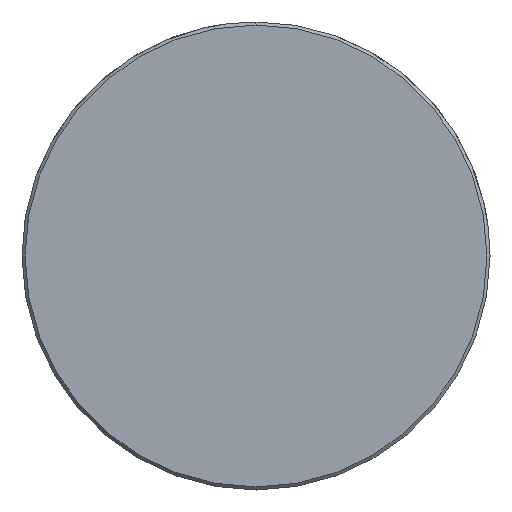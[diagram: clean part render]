
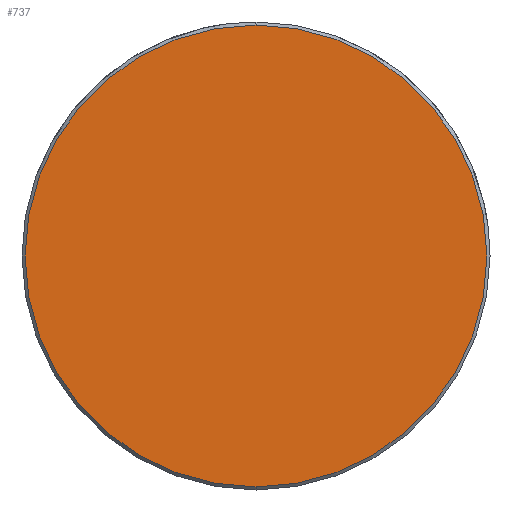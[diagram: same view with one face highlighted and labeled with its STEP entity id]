
A CAD part, left-side view. The second image highlights one B-rep face of the part: STEP entity #737.
In plain terms, the highlighted planar face has unit normal (-1, 0, 0).
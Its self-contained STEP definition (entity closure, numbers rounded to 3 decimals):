
#669=CARTESIAN_POINT('Vertex',(0.,0.,-22.2)) ;
#672=CARTESIAN_POINT('Axis2P3D Location',(0.,0.,0.)) ;
#676=CARTESIAN_POINT('Vertex',(0.,22.2,0.)) ;
#679=CARTESIAN_POINT('Axis2P3D Location',(0.,0.,0.)) ;
#683=CARTESIAN_POINT('Vertex',(0.,0.,22.2)) ;
#705=CARTESIAN_POINT('Axis2P3D Location',(0.,0.,0.)) ;
#709=CARTESIAN_POINT('Vertex',(0.,-22.2,0.)) ;
#712=CARTESIAN_POINT('Axis2P3D Location',(0.,0.,0.)) ;
#726=CARTESIAN_POINT('Axis2P3D Location',(0.,0.,0.)) ;
#673=DIRECTION('Axis2P3D Direction',(1.,0.,-0.)) ;
#680=DIRECTION('Axis2P3D Direction',(1.,0.,-0.)) ;
#706=DIRECTION('Axis2P3D Direction',(1.,0.,-0.)) ;
#713=DIRECTION('Axis2P3D Direction',(1.,0.,-0.)) ;
#727=DIRECTION('Axis2P3D Direction',(1.,0.,-0.)) ;
#728=DIRECTION('Axis2P3D XDirection',(-0.,0.,-1.)) ;
#674=AXIS2_PLACEMENT_3D('Circle Axis2P3D',#672,#673,$) ;
#681=AXIS2_PLACEMENT_3D('Circle Axis2P3D',#679,#680,$) ;
#707=AXIS2_PLACEMENT_3D('Circle Axis2P3D',#705,#706,$) ;
#714=AXIS2_PLACEMENT_3D('Circle Axis2P3D',#712,#713,$) ;
#729=AXIS2_PLACEMENT_3D('Plane Axis2P3D',#726,#727,#728) ;
#732=ORIENTED_EDGE('',*,*,#678,.F.) ;
#733=ORIENTED_EDGE('',*,*,#716,.F.) ;
#734=ORIENTED_EDGE('',*,*,#711,.F.) ;
#735=ORIENTED_EDGE('',*,*,#685,.F.) ;
#737=ADVANCED_FACE('549-40X360',(#736),#730,.F.) ;
#675=CIRCLE('generated circle',#674,22.2) ;
#682=CIRCLE('generated circle',#681,22.2) ;
#708=CIRCLE('generated circle',#707,22.2) ;
#715=CIRCLE('generated circle',#714,22.2) ;
#678=EDGE_CURVE('',#670,#677,#675,.T.) ;
#685=EDGE_CURVE('',#677,#684,#682,.T.) ;
#711=EDGE_CURVE('',#684,#710,#708,.T.) ;
#716=EDGE_CURVE('',#710,#670,#715,.T.) ;
#731=EDGE_LOOP('',(#732,#733,#734,#735)) ;
#736=FACE_OUTER_BOUND('',#731,.T.) ;
#730=PLANE('Plane',#729) ;
#670=VERTEX_POINT('',#669) ;
#677=VERTEX_POINT('',#676) ;
#684=VERTEX_POINT('',#683) ;
#710=VERTEX_POINT('',#709) ;
